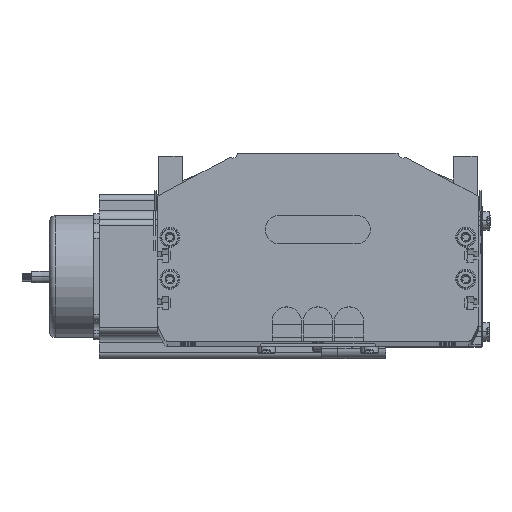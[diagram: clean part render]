
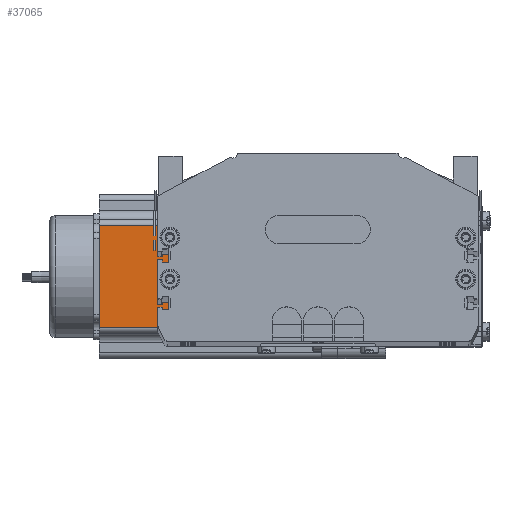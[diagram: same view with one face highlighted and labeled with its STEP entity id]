
A CAD part, top view. The second image highlights one B-rep face of the part: STEP entity #37065.
In plain terms, the highlighted planar face has unit normal (0, 0, 1) as drawn and (0, -1, 0) by its records, which use the part's own axes.
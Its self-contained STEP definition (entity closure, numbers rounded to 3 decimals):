
#36910 = VERTEX_POINT ( 'NONE', #65784 ) ;
#36981 = VERTEX_POINT ( 'NONE', #66202 ) ;
#36985 = VERTEX_POINT ( 'NONE', #66116 ) ;
#37053 = ORIENTED_EDGE ( 'NONE', *, *, #37074, .T. ) ;
#37056 = EDGE_LOOP ( 'NONE', ( #37053, #37069, #37077, #37086 ) ) ;
#37065 = ADVANCED_FACE ( 'NONE', ( #66408 ), #66578, .F. ) ;
#37067 = VERTEX_POINT ( 'NONE', #66560 ) ;
#37069 = ORIENTED_EDGE ( 'NONE', *, *, #37232, .T. ) ;
#37074 = EDGE_CURVE ( 'NONE', #36910, #37067, #66552, .T. ) ;
#37077 = ORIENTED_EDGE ( 'NONE', *, *, #37079, .F. ) ;
#37079 = EDGE_CURVE ( 'NONE', #36981, #36985, #66519, .T. ) ;
#37083 = EDGE_CURVE ( 'NONE', #36981, #36910, #66521, .T. ) ;
#37086 = ORIENTED_EDGE ( 'NONE', *, *, #37083, .T. ) ;
#37232 = EDGE_CURVE ( 'NONE', #37067, #36985, #67437, .T. ) ;
#65784 = CARTESIAN_POINT ( 'NONE',  ( 16.16, 0., 0. ) ) ;
#66116 = CARTESIAN_POINT ( 'NONE',  ( 69.74, 0., 116.5 ) ) ;
#66202 = CARTESIAN_POINT ( 'NONE',  ( 16.16, 0., 116.5 ) ) ;
#66408 = FACE_OUTER_BOUND ( 'NONE', #37056, .T. ) ;
#66462 = CARTESIAN_POINT ( 'NONE',  ( 0., 0., 116.5 ) ) ;
#66512 = DIRECTION ( 'NONE',  ( 1., 0., 0. ) ) ;
#66514 = VECTOR ( 'NONE', #66512, 1000. ) ;
#66517 = CARTESIAN_POINT ( 'NONE',  ( 0., 0., 116.5 ) ) ;
#66519 = LINE ( 'NONE', #66517, #66514 ) ;
#66521 = LINE ( 'NONE', #66539, #66665 ) ;
#66539 = CARTESIAN_POINT ( 'NONE',  ( 16.16, 0., 116.5 ) ) ;
#66542 = DIRECTION ( 'NONE',  ( 1., 0., 0. ) ) ;
#66543 = VECTOR ( 'NONE', #66542, 1000. ) ;
#66552 = LINE ( 'NONE', #66569, #66543 ) ;
#66560 = CARTESIAN_POINT ( 'NONE',  ( 69.74, 0., 0. ) ) ;
#66565 = DIRECTION ( 'NONE',  ( 0., 0., 1. ) ) ;
#66569 = CARTESIAN_POINT ( 'NONE',  ( 0., 0., 0. ) ) ;
#66572 = DIRECTION ( 'NONE',  ( 0., 1., 0. ) ) ;
#66578 = PLANE ( 'NONE',  #66587 ) ;
#66587 = AXIS2_PLACEMENT_3D ( 'NONE', #66462, #66572, #66565 ) ;
#66664 = DIRECTION ( 'NONE',  ( 0., 0., -1. ) ) ;
#66665 = VECTOR ( 'NONE', #66664, 1000. ) ;
#67434 = DIRECTION ( 'NONE',  ( 0., 0., 1. ) ) ;
#67435 = VECTOR ( 'NONE', #67434, 1000. ) ;
#67436 = CARTESIAN_POINT ( 'NONE',  ( 69.74, 0., 116.5 ) ) ;
#67437 = LINE ( 'NONE', #67436, #67435 ) ;
